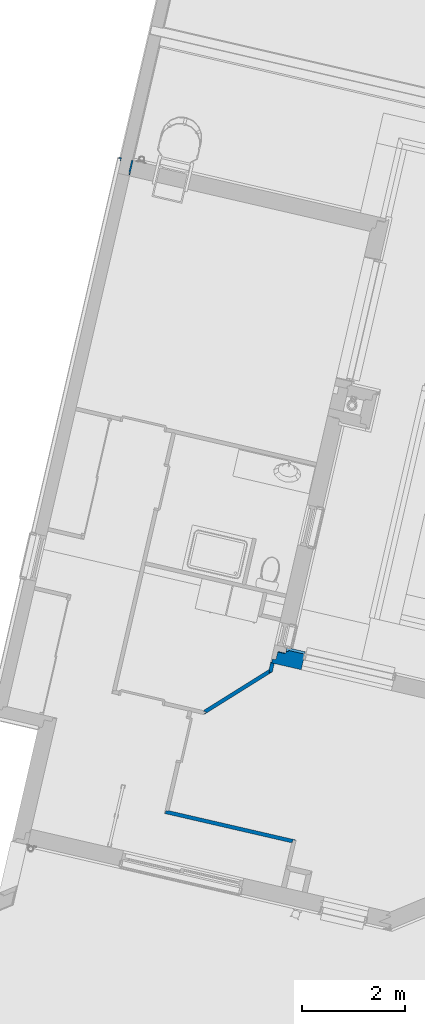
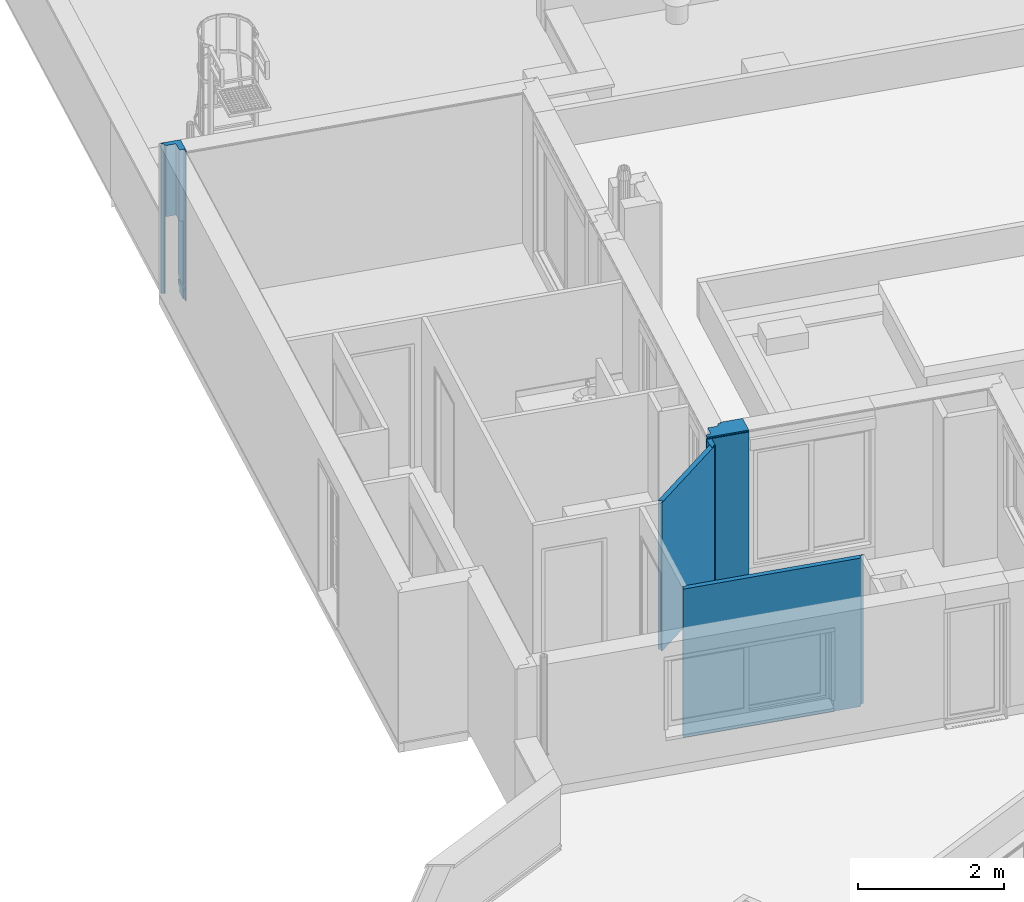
# One storey, part 8 of 47: 5 walls.
"""IFC2X3 building model written with IfcOpenShell, lengths in metres."""

from ifc_helpers import new_model, entity, si_unit, converted_unit, derived_unit, money_unit, direction, frame, origin_with_axes, place, context, subcontext, project, spatial, faceted_brep, material, material_list, type_object, element, save


model = new_model("IFC2X3")

# Units and contexts
model_context = context("Model", 3, precision=1e-05, world=origin_with_axes(), true_north=direction((0.0, 1.0)))
body_context = subcontext(model_context, "Body", "Model", "MODEL_VIEW")
ifc_project = project(units=[si_unit("LENGTHUNIT", "METRE"), si_unit("AREAUNIT", "SQUARE_METRE"), si_unit("VOLUMEUNIT", "CUBIC_METRE"), converted_unit("PLANEANGLEUNIT", "DEGREE", entity("IfcPlaneAngleMeasure", 0.0174532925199), si_unit("PLANEANGLEUNIT", "RADIAN"), dimensions=[0, 0, 0, 0, 0, 0, 0]), si_unit("SOLIDANGLEUNIT", "STERADIAN"), money_unit("EUR"), converted_unit("TIMEUNIT", "Year", entity("IfcTimeMeasure", 31556926.0), si_unit("TIMEUNIT", "SECOND"), dimensions=[0, 0, 1, 0, 0, 0, 0]), si_unit("MASSUNIT", "GRAM", prefix="KILO"), si_unit("THERMODYNAMICTEMPERATUREUNIT", "DEGREE_CELSIUS"), si_unit("LUMINOUSINTENSITYUNIT", "LUMEN"), si_unit("ENERGYUNIT", "JOULE", prefix="MEGA"), derived_unit("THERMALCONDUCTANCEUNIT", [(si_unit("POWERUNIT", "WATT"), 1), (si_unit("LENGTHUNIT", "METRE"), -1), (si_unit("THERMODYNAMICTEMPERATUREUNIT", "KELVIN"), -1)]), derived_unit("SPECIFICHEATCAPACITYUNIT", [(si_unit("ENERGYUNIT", "JOULE"), 1), (si_unit("MASSUNIT", "GRAM", prefix="KILO"), -1), (si_unit("THERMODYNAMICTEMPERATUREUNIT", "KELVIN"), -1)]), derived_unit("MASSDENSITYUNIT", [(si_unit("MASSUNIT", "GRAM", prefix="KILO"), 1), (si_unit("VOLUMEUNIT", "CUBIC_METRE"), -1)])], contexts=[model_context])

# Site, building, storey
site_placement = place(None, origin_with_axes())
site = spatial("IfcSite", under=ifc_project, at=site_placement, Name="Site", CompositionType="ELEMENT")
building_placement = place(site_placement, origin_with_axes())
building = spatial("IfcBuilding", under=site, at=building_placement, Name="Bâtiment", CompositionType="ELEMENT")
storey_placement = place(building_placement, frame((0.0, 0.0, 10.88), z_axis=(0.0, 0.0, 1.0), x_axis=(1.0, 0.0, 0.0)))
storey = spatial("IfcBuildingStorey", under=building, at=storey_placement, Name="R+4", CompositionType="ELEMENT", Elevation=10.88)

# Walls
ifc_material_1 = material(Name="Finition int - Plaque de plâtre")
ifc_material_2 = material(Name="Isolation - Laine de roche")
ifc_material_list_1 = material_list([ifc_material_1, ifc_material_2, ifc_material_1])
wall_type_1 = type_object("IfcWallType", Name="3 - Cloison 72mm Placostil 74", PredefinedType="USERDEFINED")
wall_1_placement = place(storey_placement, frame((-14.0630039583, -11.6742823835, 0.0), z_axis=(0.0, 0.0, 1.0), x_axis=(-0.974387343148, 0.224876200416, 0.0)))
element("IfcWall", 1, at=wall_1_placement, inside=storey, type_object=wall_type_1, material=ifc_material_list_1, Name="Cloison Placostil 72/48", ObjectType="PARTITIONING", context=body_context, shape_type="Brep", body=[
    faceted_brep([(0.0739999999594, 0.074, 0.02), (0.0739999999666, 0.061, 0.02), (0.0739999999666, 0.061, 2.5), (0.0739999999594, 0.074, 2.5), (2.61095097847, 0.061, 0.02), (2.61095097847, 0.074, 0.02), (2.61095097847, 0.061, 2.5), (2.61095097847, 0.074, 2.5)], [[[0, 1, 2, 3]], [[4, 1, 0, 5]], [[1, 4, 6, 2]], [[6, 7, 3, 2]], [[5, 0, 3, 7]], [[4, 5, 7, 6]]]),
    faceted_brep([(0.0609999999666, 0.061, 0.02), (0.0609999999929, 0.013, 0.02), (0.0609999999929, 0.013, 2.5), (0.0609999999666, 0.061, 2.5), (2.59795097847, 0.013, 0.02), (2.59795097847, 0.061, 0.02), (2.59795097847, 0.013, 2.5), (2.59795097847, 0.061, 2.5)], [[[0, 1, 2, 3]], [[4, 1, 0, 5]], [[1, 4, 6, 2]], [[6, 7, 3, 2]], [[5, 0, 3, 7]], [[4, 5, 7, 6]]]),
    faceted_brep([(0.0129999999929, 0.013, 0.02), (0.013, 0.0, 0.02), (0.013, 0.0, 2.5), (0.0129999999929, 0.013, 2.5), (2.54995097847, 0.0, 0.02), (2.54995097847, 0.013, 0.02), (2.54995097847, 0.0, 2.5), (2.54995097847, 0.013, 2.5)], [[[0, 1, 2, 3]], [[4, 1, 0, 5]], [[1, 4, 6, 2]], [[6, 7, 3, 2]], [[5, 0, 3, 7]], [[4, 5, 7, 6]]]),
])
wall_2_placement = place(storey_placement, frame((-14.5908405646, -8.35991077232, 0.0), z_axis=(0.0, 0.0, 1.0), x_axis=(-0.848007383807, -0.529984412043, 0.0)))
element("IfcWall", 2, at=wall_2_placement, inside=storey, type_object=wall_type_1, material=ifc_material_list_1, Name="Cloison Placostil 72/48", ObjectType="PARTITIONING", context=body_context, shape_type="Brep", body=[
    faceted_brep([(-0.0122670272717, 0.074, 0.02), (-0.0252670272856, 0.061, 0.02), (-0.0252670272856, 0.061, 2.5), (-0.0122670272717, 0.074, 2.5), (1.53111790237, 0.061, 0.02), (1.51811790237, 0.074, 0.02), (1.53111790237, 0.061, 2.5), (1.51811790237, 0.074, 2.5)], [[[0, 1, 2, 3]], [[4, 1, 0, 5]], [[1, 4, 6, 2]], [[6, 7, 3, 2]], [[5, 0, 3, 7]], [[4, 5, 7, 6]]]),
    faceted_brep([(0.0426152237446, 0.061, 0.02), (-0.00538477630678, 0.013, 0.02), (-0.00538477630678, 0.013, 2.5), (0.0426152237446, 0.061, 2.5), (1.51123565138, 0.013, 0.02), (1.46323565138, 0.061, 0.02), (1.51123565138, 0.013, 2.5), (1.46323565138, 0.061, 2.5)], [[[0, 1, 2, 3]], [[4, 1, 0, 5]], [[1, 4, 6, 2]], [[6, 7, 3, 2]], [[5, 0, 3, 7]], [[4, 5, 7, 6]]]),
    faceted_brep([(0.0130000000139, 0.013, 0.02), (0.0, 0.0, 0.02), (0.0, 0.0, 2.5), (0.0130000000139, 0.013, 2.5), (1.50585087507, 0.0, 0.02), (1.49285087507, 0.013, 0.02), (1.50585087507, 0.0, 2.5), (1.49285087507, 0.013, 2.5)], [[[0, 1, 2, 3]], [[4, 1, 0, 5]], [[1, 4, 6, 2]], [[6, 7, 3, 2]], [[5, 0, 3, 7]], [[4, 5, 7, 6]]]),
])
wall_3_placement = place(storey_placement, frame((-14.5602169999, -8.22721903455, 0.0), z_axis=(0.0, 0.0, 1.0), x_axis=(-0.224876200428, -0.974387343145, 0.0)))
element("IfcWall", 3, at=wall_3_placement, inside=storey, type_object=wall_type_1, material=ifc_material_list_1, Name="Cloison Placostil 72/48", ObjectType="PARTITIONING", context=body_context, shape_type="Brep", body=[
    faceted_brep([(0.166831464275, 0.074, 0.02), (0.0, 0.074, 0.02), (0.0, 0.074, 2.5), (0.166831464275, 0.074, 2.5), (0.0, 0.061, 0.02), (0.179831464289, 0.061, 0.02), (0.0, 0.061, 2.5), (0.179831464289, 0.061, 2.5)], [[[0, 1, 2, 3]], [[4, 1, 0, 5]], [[1, 4, 6, 2]], [[7, 3, 2, 6]], [[5, 0, 3, 7]], [[4, 5, 7, 6]]]),
    faceted_brep([(0.161446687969, 0.061, 0.02), (0.0, 0.061, 0.02), (0.0, 0.061, 2.5), (0.161446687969, 0.061, 2.5), (0.0, 0.013, 0.02), (0.20944668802, 0.013, 0.02), (0.0, 0.013, 2.5), (0.20944668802, 0.013, 2.5)], [[[0, 1, 2, 3]], [[4, 1, 0, 5]], [[1, 4, 6, 2]], [[7, 3, 2, 6]], [[5, 0, 3, 7]], [[4, 5, 7, 6]]]),
    faceted_brep([(0.14156443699, 0.013, 0.02), (0.0, 0.013, 0.02), (0.0, 0.013, 2.5), (0.14156443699, 0.013, 2.5), (0.0, 0.0, 0.02), (0.154564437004, 0.0, 0.02), (0.0, 0.0, 2.5), (0.154564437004, 0.0, 2.5)], [[[0, 1, 2, 3]], [[4, 1, 0, 5]], [[1, 4, 6, 2]], [[7, 3, 2, 6]], [[5, 0, 3, 7]], [[4, 5, 7, 6]]]),
])
ifc_material_3 = material(Name="Métal - Aluminium")
ifc_material_4 = material(Name="Etanchéité - Bitume")
ifc_material_5 = material(Name="Isolation - Polyuréthane (extérieur)")
ifc_material_6 = material(Name="Finition ext - Bardage bois")
ifc_material_7 = material(Name="Bois - Lattage")
ifc_material_8 = material(Name="Bois - OSB 02")
ifc_material_9 = material(Name="Béton")
ifc_material_10 = material(Name="Isolation - Laine de verre")
ifc_material_11 = material(Name="Bois - Massif 01")
ifc_material_12 = material(Name="Etanchéité - Pare-vapeur")
ifc_material_list_2 = material_list([ifc_material_3, ifc_material_4, ifc_material_5, ifc_material_6, ifc_material_7, ifc_material_8, ifc_material_9, ifc_material_10, ifc_material_11, ifc_material_11, ifc_material_12, ifc_material_10, ifc_material_1])
wall_type_2 = type_object("IfcWallType", Name="Mur ossature Bois avec talon béton 358 x 2500", PredefinedType="ELEMENTEDWALL")
wall_4_placement = place(storey_placement, frame((-14.1884452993, -7.99487058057, 0.02), z_axis=(0.0, 0.0, 1.0), x_axis=(0.974387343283, -0.224876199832, 0.0)))
element("IfcWall", 4, at=wall_4_placement, inside=storey, type_object=wall_type_2, material=ifc_material_list_2, Name="M_Ext-009", ObjectType="ELEMENTEDWALL", context=body_context, shape_type="Brep", body=[
    faceted_brep([(-0.0650000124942, -0.06, 0.275), (-0.0650000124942, -0.06, 0.435), (0.300660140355, -0.06, 0.435), (0.300660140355, -0.06, 0.235), (-0.0650000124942, -0.06, 0.235), (-0.0650000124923, -0.065, 0.435), (-0.0650000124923, -0.065, 0.275), (0.300660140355, -0.065, 0.435), (0.300660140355, -0.065, 0.23), (0.300660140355, 0.0279999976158, 0.230000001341), (0.300660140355, 0.043, 0.23), (0.300660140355, 0.043, 0.2), (0.300660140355, 0.048, 0.2), (0.300660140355, 0.048, 0.235), (-0.0650000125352, 0.048, 0.235), (-0.0650000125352, 0.048, 0.230000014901), (-0.0650000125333, 0.043, 0.230000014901), (-0.0650000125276, 0.0279999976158, 0.230000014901), (-0.0650000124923, -0.065, 0.230000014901), (-0.0619999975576, 0.043, 0.230000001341), (0.0180000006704, 0.043, 0.230000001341), (0.0280000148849, 0.043, 0.230000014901), (0.0429999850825, 0.043, 0.230000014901), (0.0429999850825, 0.043, 0.2), (0.0429999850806, 0.048, 0.2), (0.0429999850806, 0.048, 0.230000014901), (0.028000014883, 0.048, 0.230000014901), (0.0180000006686, 0.048, 0.230000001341), (-0.0619999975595, 0.048, 0.230000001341)], [[[0, 1, 2, 3, 4]], [[5, 1, 0, 6]], [[1, 5, 7, 2]], [[3, 2, 7, 8, 9, 10, 11, 12, 13]], [[14, 4, 3, 13]], [[6, 0, 4, 14, 15, 16, 17, 18]], [[5, 6, 18, 8, 7]], [[18, 17, 9, 8]], [[17, 16, 19, 20, 21, 22, 10, 9]], [[22, 23, 11, 10]], [[23, 24, 12, 11]], [[15, 14, 13, 12, 24, 25, 26, 27, 28]], [[16, 15, 28, 19]], [[27, 20, 19, 28]], [[26, 21, 20, 27]], [[26, 25, 22, 21]], [[25, 24, 23, 22]]]),
    faceted_brep([(0.300660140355, 0.0179999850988, 0.109999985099), (0.300660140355, 0.0279999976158, 0.109999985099), (0.300660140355, 0.0279999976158, 0.230000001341), (0.300660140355, 0.0180000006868, 0.230000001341), (0.0180000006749, 0.0279999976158, 0.109999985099), (0.0180000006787, 0.0179999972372, 0.109999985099), (0.0180000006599, 0.0279999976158, 0.230000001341), (0.0180000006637, 0.0180000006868, 0.230000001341)], [[[0, 1, 2, 3]], [[4, 1, 0, 5]], [[1, 4, 6, 2]], [[2, 6, 7, 3]], [[5, 0, 3, 7]], [[4, 5, 7, 6]]]),
    faceted_brep([(0.300660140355, -0.0619999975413, 0.0999999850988), (0.300660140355, 0.0180000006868, 0.0999999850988), (0.300660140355, 0.0180000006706, 0.230000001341), (0.300660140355, -0.0619999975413, 0.230000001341), (-0.0619999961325, 0.0180000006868, 0.0999999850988), (-0.0619999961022, -0.0619999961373, 0.0999999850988), (-0.0619999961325, 0.0180000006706, 0.23), (-0.0619999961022, -0.0619999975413, 0.23)], [[[0, 1, 2, 3]], [[4, 1, 0, 5]], [[1, 4, 6, 2]], [[2, 6, 7, 3]], [[5, 0, 3, 7]], [[4, 5, 7, 6]]]),
    faceted_brep([(-0.024999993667, 0.0, 2.45499997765), (-0.024999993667, 0.0, 2.5), (0.300660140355, 0.0, 2.5), (0.300660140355, 0.0, 0.435), (-0.024999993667, 0.0, 0.435000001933), (-0.0249999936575, -0.025, 2.5), (-0.0249999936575, -0.025, 2.45499997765), (0.300660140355, -0.025, 2.5), (0.300660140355, -0.025, 0.435), (-0.0249999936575, -0.025, 0.435000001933)], [[[0, 1, 2, 3, 4]], [[5, 1, 0, 6]], [[1, 5, 7, 2]], [[3, 2, 7, 8]], [[9, 4, 3, 8]], [[6, 0, 4, 9]], [[5, 6, 9, 8, 7]]]),
    faceted_brep([(-0.0650000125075, -0.024999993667, 2.45499997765), (-0.0650000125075, -0.024999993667, 2.5), (0.300660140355, -0.024999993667, 2.5), (0.300660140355, -0.024999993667, 0.435000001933), (-0.0650000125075, -0.024999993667, 0.435), (-0.0650000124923, -0.0649999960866, 2.5), (-0.0650000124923, -0.0649999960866, 2.45499997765), (0.300660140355, -0.0649999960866, 2.5), (0.300660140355, -0.0600000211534, 0.435000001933), (0.300660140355, -0.0649999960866, 0.435000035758), (-0.0650000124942, -0.0600000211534, 0.435), (-0.0650000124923, -0.0649999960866, 0.435)], [[[0, 1, 2, 3, 4]], [[5, 1, 0, 6]], [[1, 5, 7, 2]], [[8, 3, 2, 7, 9]], [[10, 4, 3, 8]], [[6, 0, 4, 10, 11]], [[5, 6, 11, 9, 7]], [[11, 10, 8, 9]]]),
    faceted_brep([(-0.0769999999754, -0.065000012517, 2.455), (-0.0769999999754, -0.065000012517, 2.5), (0.300660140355, -0.065000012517, 2.5), (0.300660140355, -0.065000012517, 0.230000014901), (-0.0769999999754, -0.065000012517, 0.23), (-0.0769999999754, -0.065000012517, 0.275), (-0.0769999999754, -0.065000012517, 0.435), (-0.0769999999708, -0.0770000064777, 2.5), (-0.0769999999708, -0.0770000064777, 2.455), (0.300660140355, -0.0770000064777, 2.5), (0.300660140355, -0.0770000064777, 0.230000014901), (-0.0769999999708, -0.0770000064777, 0.23), (-0.0769999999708, -0.0770000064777, 0.275), (-0.0769999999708, -0.0770000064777, 0.435)], [[[0, 1, 2, 3, 4, 5, 6]], [[7, 1, 0, 8]], [[1, 7, 9, 2]], [[10, 3, 2, 9]], [[11, 4, 3, 10]], [[12, 5, 4, 11]], [[13, 6, 5, 12]], [[8, 0, 6, 13]], [[7, 8, 13, 12, 11, 10, 9]]]),
    faceted_brep([(-0.221999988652, -0.0619999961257, 0.23), (0.300660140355, -0.0619999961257, 0.23), (0.300660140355, -0.0619999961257, 0.0), (-0.221999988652, -0.0619999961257, 0.0), (-0.221999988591, -0.222000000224, 0.23), (0.300660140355, -0.222000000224, 0.23), (0.300660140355, -0.222000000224, 0.0), (-0.221999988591, -0.222000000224, 0.0)], [[[0, 1, 2, 3]], [[1, 0, 4, 5]], [[1, 5, 6, 2]], [[6, 7, 3, 2]], [[7, 4, 0, 3]], [[5, 4, 7, 6]]]),
    faceted_brep([(-0.221999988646, -0.077, 0.435), (-0.221999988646, -0.077, 2.45499997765), (0.300660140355, -0.077, 2.45499997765), (0.300660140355, -0.077, 0.275), (-0.221999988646, -0.077, 0.275), (-0.221999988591, -0.221999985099, 2.45499997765), (-0.221999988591, -0.221999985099, 0.435), (0.300660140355, -0.221999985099, 2.4550000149), (0.300660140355, -0.221999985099, 0.275), (-0.221999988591, -0.221999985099, 0.275)], [[[0, 1, 2, 3, 4]], [[5, 1, 0, 6]], [[1, 5, 7, 2]], [[7, 8, 3, 2]], [[9, 4, 3, 8]], [[6, 0, 4, 9]], [[5, 6, 9, 8, 7]]]),
    faceted_brep([(-0.221999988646, -0.077, 0.23), (-0.221999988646, -0.077, 0.275), (0.300660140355, -0.077, 0.275), (0.300660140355, -0.077, 0.23), (-0.221999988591, -0.222, 0.275), (-0.221999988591, -0.222, 0.23), (0.300660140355, -0.222, 0.275), (0.300660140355, -0.222, 0.23)], [[[0, 1, 2, 3]], [[4, 1, 0, 5]], [[1, 4, 6, 2]], [[2, 6, 7, 3]], [[5, 0, 3, 7]], [[4, 5, 7, 6]]]),
    faceted_brep([(-0.221999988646, -0.077, 2.45499997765), (-0.221999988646, -0.077, 2.5), (0.300660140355, -0.077, 2.5), (0.300660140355, -0.077, 2.455), (-0.221999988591, -0.222, 2.5), (-0.221999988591, -0.222, 2.45499997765), (0.300660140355, -0.222, 2.5), (0.300660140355, -0.222, 2.455)], [[[0, 1, 2, 3]], [[4, 1, 0, 5]], [[1, 4, 6, 2]], [[2, 6, 7, 3]], [[5, 0, 3, 7]], [[4, 5, 7, 6]]]),
    faceted_brep([(-0.232000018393, -0.221999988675, 2.5), (0.300660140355, -0.221999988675, 2.5), (0.300660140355, -0.221999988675, 0.0), (-0.232000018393, -0.221999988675, 0.0), (-0.23200001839, -0.232000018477, 2.5), (0.300660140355, -0.232000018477, 2.5), (0.300660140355, -0.232000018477, 0.0), (-0.23200001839, -0.232000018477, 0.0)], [[[0, 1, 2, 3]], [[1, 0, 4, 5]], [[1, 5, 6, 2]], [[6, 7, 3, 2]], [[7, 4, 0, 3]], [[5, 4, 7, 6]]]),
    faceted_brep([(-0.292000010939, -0.232000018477, 2.5), (0.300660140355, -0.232000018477, 2.5), (0.300660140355, -0.232000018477, 0.0), (-0.292000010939, -0.232000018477, 0.0), (-0.292000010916, -0.292000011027, 2.5), (0.300660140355, -0.292000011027, 2.5), (0.300660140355, -0.292000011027, 0.0), (-0.292000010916, -0.292000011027, 0.0)], [[[0, 1, 2, 3]], [[1, 0, 4, 5]], [[6, 2, 1, 5]], [[6, 7, 3, 2]], [[7, 4, 0, 3]], [[5, 4, 7, 6]]]),
    faceted_brep([(-0.309999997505, -0.292000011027, 2.48), (-0.292000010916, -0.292000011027, 2.48), (0.300660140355, -0.292000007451, 2.48), (0.300660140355, -0.292000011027, 0.0), (-0.309999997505, -0.292000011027, 0.0), (0.300660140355, -0.309999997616, 2.48), (-0.309999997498, -0.309999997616, 2.48), (0.300660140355, -0.309999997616, 0.0), (-0.309999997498, -0.309999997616, 0.0)], [[[0, 1, 2, 3, 4]], [[5, 2, 1, 0, 6]], [[2, 5, 7, 3]], [[7, 8, 4, 3]], [[6, 0, 4, 8]], [[5, 6, 8, 7]]]),
])
ifc_material_list_3 = material_list([ifc_material_10, ifc_material_12, ifc_material_10, ifc_material_8, ifc_material_7, ifc_material_6])
wall_type_3 = type_object("IfcWallType", Name="1 - Mur Ossature Bois 145 isolé + bardage 310", PredefinedType="ELEMENTEDWALL")
wall_5_placement = place(storey_placement, frame((-17.2337447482, 1.52151722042, 0.02), z_axis=(0.0, 0.0, 1.0), x_axis=(-0.974387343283, 0.224876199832, 0.0)))
element("IfcWall", 5, at=wall_5_placement, inside=storey, type_object=wall_type_3, material=ifc_material_list_3, Name="M_Ext-009", ObjectType="ELEMENTEDWALL", context=body_context, shape_type="Brep", body=[
    faceted_brep([(0.0125153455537, 0.217, 0.215967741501), (0.0125153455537, 0.217, 0.218305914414), (0.0179999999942, 0.217, 0.220679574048), (0.0179999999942, 0.217, 2.5), (0.0, 0.217, 2.5), (0.0, 0.217, 0.0), (0.0179999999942, 0.217, 0.0), (0.0179999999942, 0.217, 0.186881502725), (0.0137494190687, 0.217, 0.186881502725), (0.0125153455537, 0.217, 0.186881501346), (0.0125153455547, 0.277, 0.218305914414), (0.0125153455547, 0.277, 0.215967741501), (0.0179999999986, 0.277, 0.22067957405), (0.0179999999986, 0.277, 2.5), (0.0, 0.277, 2.5), (0.0, 0.277, 0.0), (0.0179999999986, 0.277, 0.0), (0.0179999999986, 0.277, 0.186881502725), (0.0137494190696, 0.277, 0.186881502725), (0.0125153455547, 0.277, 0.186881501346)], [[[0, 1, 2, 3, 4, 5, 6, 7, 8, 9]], [[10, 1, 0, 11]], [[12, 2, 1, 10]], [[3, 2, 12, 13]], [[4, 3, 13, 14]], [[4, 14, 15, 5]], [[15, 16, 6, 5]], [[16, 17, 7, 6]], [[17, 18, 8, 7]], [[9, 8, 18, 19]], [[19, 11, 0, 9]], [[12, 10, 11, 19, 18, 17, 16, 15, 14, 13]]]),
    faceted_brep([(0.032999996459, 0.207, 0.266423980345), (0.032999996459, 0.207, 1.31), (0.0779999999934, 0.207, 1.31), (0.0779999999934, 0.207, 2.5), (0.0, 0.207, 2.5), (0.0, 0.207, 0.0), (0.032999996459, 0.207, 0.0), (0.032999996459, 0.207, 0.0872580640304), (0.032999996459, 0.207, 0.186881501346), (0.0230000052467, 0.207, 0.186881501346), (0.0137494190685, 0.207, 0.186881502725), (0.0125153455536, 0.207, 0.186881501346), (0.0125153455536, 0.207, 0.215967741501), (0.0125153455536, 0.207, 0.218305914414), (0.0293595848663, 0.207, 0.225595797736), (0.0319546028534, 0.207, 0.226718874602), (0.0319546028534, 0.207, 0.26642398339), (0.0329999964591, 0.217, 1.31), (0.0329999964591, 0.217, 0.266423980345), (0.0779999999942, 0.217, 1.31), (0.0779999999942, 0.217, 2.5), (0.0, 0.217, 2.5), (0.0, 0.217, 0.0), (0.0329999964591, 0.217, 0.0), (0.0329999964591, 0.217, 0.0872580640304), (0.0329999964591, 0.217, 0.186881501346), (0.0230000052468, 0.217, 0.186881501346), (0.0137494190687, 0.217, 0.186881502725), (0.0125153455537, 0.217, 0.186881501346), (0.0125153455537, 0.217, 0.215967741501), (0.0125153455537, 0.217, 0.218305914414), (0.0293595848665, 0.217, 0.225595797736), (0.0319546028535, 0.217, 0.226718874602), (0.0319546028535, 0.217, 0.26642398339)], [[[0, 1, 2, 3, 4, 5, 6, 7, 8, 9, 10, 11, 12, 13, 14, 15, 16]], [[17, 1, 0, 18]], [[19, 2, 1, 17]], [[3, 2, 19, 20]], [[4, 3, 20, 21]], [[4, 21, 22, 5]], [[22, 23, 6, 5]], [[23, 24, 7, 6]], [[25, 8, 7, 24]], [[25, 26, 9, 8]], [[10, 9, 26, 27]], [[11, 10, 27, 28]], [[28, 29, 12, 11]], [[30, 13, 12, 29]], [[30, 31, 14, 13]], [[32, 15, 14, 31]], [[33, 16, 15, 32]], [[33, 18, 0, 16]], [[19, 17, 18, 33, 32, 31, 30, 29, 28, 27, 26, 25, 24, 23, 22, 21, 20]]]),
    faceted_brep([(0.0329999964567, 0.062, 0.266423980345), (0.0329999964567, 0.062, 1.31), (0.0879999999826, 0.062, 1.31), (0.0879999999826, 0.062, 2.5), (0.0, 0.062, 2.5), (0.0, 0.062, 0.0), (0.0329999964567, 0.062, 0.0), (0.0329999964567, 0.062, 0.0872580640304), (0.0329999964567, 0.062, 0.186881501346), (0.0230000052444, 0.062, 0.186881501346), (0.0137494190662, 0.062, 0.186881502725), (0.0125153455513, 0.062, 0.186881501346), (0.0125153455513, 0.062, 0.215967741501), (0.0125153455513, 0.062, 0.218305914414), (0.0293595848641, 0.062, 0.225595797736), (0.0319546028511, 0.062, 0.226718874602), (0.0319546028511, 0.062, 0.26642398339), (0.032999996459, 0.207, 1.31), (0.032999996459, 0.207, 0.266423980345), (0.0879999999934, 0.207, 1.31), (0.0879999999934, 0.207, 2.5), (0.0, 0.207, 2.5), (0.0, 0.207, 0.0), (0.032999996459, 0.207, 0.0), (0.032999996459, 0.207, 0.0872580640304), (0.032999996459, 0.207, 0.186881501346), (0.0230000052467, 0.207, 0.186881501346), (0.0137494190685, 0.207, 0.186881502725), (0.0125153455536, 0.207, 0.186881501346), (0.0125153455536, 0.207, 0.215967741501), (0.0125153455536, 0.207, 0.218305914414), (0.0293595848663, 0.207, 0.225595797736), (0.0319546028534, 0.207, 0.226718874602), (0.0319546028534, 0.207, 0.26642398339)], [[[0, 1, 2, 3, 4, 5, 6, 7, 8, 9, 10, 11, 12, 13, 14, 15, 16]], [[17, 1, 0, 18]], [[19, 2, 1, 17]], [[3, 2, 19, 20]], [[4, 3, 20, 21]], [[4, 21, 22, 5]], [[22, 23, 6, 5]], [[23, 24, 7, 6]], [[25, 8, 7, 24]], [[25, 26, 9, 8]], [[10, 9, 26, 27]], [[11, 10, 27, 28]], [[28, 29, 12, 11]], [[30, 13, 12, 29]], [[30, 31, 14, 13]], [[32, 15, 14, 31]], [[33, 16, 15, 32]], [[33, 18, 0, 16]], [[19, 17, 18, 33, 32, 31, 30, 29, 28, 27, 26, 25, 24, 23, 22, 21, 20]]]),
    faceted_brep([(0.0329999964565, 0.05, 0.266423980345), (0.0329999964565, 0.05, 1.31), (0.232999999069, 0.05, 1.31), (0.232999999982, 0.05, 2.5), (0.0, 0.05, 2.5), (0.0, 0.05, 0.0), (0.0329999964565, 0.05, 0.0), (0.0329999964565, 0.05, 0.0872580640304), (0.0329999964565, 0.05, 0.186881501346), (0.0230000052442, 0.05, 0.186881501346), (0.013749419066, 0.05, 0.186881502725), (0.0125153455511, 0.05, 0.186881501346), (0.0125153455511, 0.05, 0.215967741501), (0.0125153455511, 0.05, 0.218305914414), (0.0293595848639, 0.05, 0.225595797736), (0.0319546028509, 0.05, 0.226718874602), (0.0319546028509, 0.05, 0.26642398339), (0.0329999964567, 0.062, 1.31), (0.0329999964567, 0.062, 0.266423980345), (0.232999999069, 0.062, 1.31), (0.232999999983, 0.062, 2.5), (0.0, 0.062, 2.5), (0.0, 0.062, 0.0), (0.0329999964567, 0.062, 0.0), (0.0329999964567, 0.062, 0.0872580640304), (0.0329999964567, 0.062, 0.186881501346), (0.0230000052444, 0.062, 0.186881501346), (0.0137494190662, 0.062, 0.186881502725), (0.0125153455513, 0.062, 0.186881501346), (0.0125153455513, 0.062, 0.215967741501), (0.0125153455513, 0.062, 0.218305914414), (0.0293595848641, 0.062, 0.225595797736), (0.0319546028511, 0.062, 0.226718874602), (0.0319546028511, 0.062, 0.26642398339)], [[[0, 1, 2, 3, 4, 5, 6, 7, 8, 9, 10, 11, 12, 13, 14, 15, 16]], [[17, 1, 0, 18]], [[19, 2, 1, 17]], [[3, 2, 19, 20]], [[4, 3, 20, 21]], [[4, 21, 22, 5]], [[22, 23, 6, 5]], [[23, 24, 7, 6]], [[25, 8, 7, 24]], [[25, 26, 9, 8]], [[10, 9, 26, 27]], [[11, 10, 27, 28]], [[28, 29, 12, 11]], [[30, 13, 12, 29]], [[30, 31, 14, 13]], [[32, 15, 14, 31]], [[33, 16, 15, 32]], [[33, 18, 0, 16]], [[19, 17, 18, 33, 32, 31, 30, 29, 28, 27, 26, 25, 24, 23, 22, 21, 20]]]),
    faceted_brep([(0.0, 0.0500000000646, 0.0999999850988), (0.0, 0.01, 0.0999999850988), (0.0, 0.01, 2.5), (0.0, 0.05, 2.5), (0.0330000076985, 0.01, 0.0999999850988), (0.0330000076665, 0.05, 0.0999999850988), (0.0329999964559, 0.01, 0.186881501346), (0.0230000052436, 0.01, 0.186881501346), (0.0137494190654, 0.01, 0.186881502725), (0.0125153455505, 0.01, 0.186881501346), (0.0125153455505, 0.01, 0.215967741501), (0.0125153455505, 0.01, 0.218305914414), (0.0293595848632, 0.01, 0.225595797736), (0.0319546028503, 0.01, 0.226718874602), (0.0319546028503, 0.01, 0.26642398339), (0.0329999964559, 0.01, 0.266423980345), (0.0329999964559, 0.01, 1.31), (0.232999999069, 0.01, 1.31), (0.232999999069, 0.01, 0.266423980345), (0.232999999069, 0.01, 0.225595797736), (0.232999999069, 0.01, 0.215967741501), (0.232999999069, 0.01, 0.186881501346), (0.232999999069, 0.01, 0.0872580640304), (0.232999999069, 0.01, 0.02), (0.244999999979, 0.01, 0.02), (0.244999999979, 0.01, 2.5), (0.244999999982, 0.05, 2.5), (0.244999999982, 0.05, 0.02), (0.232999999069, 0.05, 0.02), (0.232999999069, 0.05, 0.0872580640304), (0.232999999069, 0.05, 0.186881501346), (0.232999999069, 0.05, 0.215967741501), (0.232999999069, 0.05, 0.225595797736), (0.232999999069, 0.05, 0.266423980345), (0.232999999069, 0.05, 1.31), (0.0329999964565, 0.05, 1.31), (0.0329999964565, 0.05, 0.266423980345), (0.0319546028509, 0.05, 0.26642398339), (0.0319546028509, 0.05, 0.226718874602), (0.0293595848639, 0.05, 0.225595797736), (0.0125153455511, 0.05, 0.218305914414), (0.0125153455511, 0.05, 0.215967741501), (0.0125153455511, 0.05, 0.186881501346), (0.013749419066, 0.05, 0.186881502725), (0.0230000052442, 0.05, 0.186881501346), (0.0329999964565, 0.05, 0.186881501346)], [[[0, 1, 2, 3]], [[4, 1, 0, 5]], [[1, 4, 6, 7, 8, 9, 10, 11, 12, 13, 14, 15, 16, 17, 18, 19, 20, 21, 22, 23, 24, 25, 2]], [[2, 25, 26, 3]], [[5, 0, 3, 26, 27, 28, 29, 30, 31, 32, 33, 34, 35, 36, 37, 38, 39, 40, 41, 42, 43, 44, 45]], [[4, 5, 45, 6]], [[45, 44, 7, 6]], [[8, 7, 44, 43]], [[9, 8, 43, 42]], [[42, 41, 10, 9]], [[40, 11, 10, 41]], [[40, 39, 12, 11]], [[38, 13, 12, 39]], [[37, 14, 13, 38]], [[37, 36, 15, 14]], [[35, 16, 15, 36]], [[34, 17, 16, 35]], [[33, 18, 17, 34]], [[19, 18, 33, 32]], [[20, 19, 32, 31]], [[21, 20, 31, 30]], [[22, 21, 30, 29]], [[23, 22, 29, 28]], [[24, 23, 28, 27]], [[25, 24, 27, 26]]]),
    faceted_brep([(0.0, 0.01, 0.0999999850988), (0.0, -0.015, 0.0999999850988), (0.0, -0.015, 2.5), (0.0, 0.01, 2.5), (0.0330000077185, -0.015, 0.0999999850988), (0.0330000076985, 0.01, 0.0999999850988), (0.0329999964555, -0.015, 0.186881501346), (0.0230000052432, -0.015, 0.186881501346), (0.013749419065, -0.015, 0.186881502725), (0.0125153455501, -0.015, 0.186881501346), (0.0125153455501, -0.015, 0.215967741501), (0.0125153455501, -0.015, 0.218305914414), (0.0293595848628, -0.015, 0.225595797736), (0.0319546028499, -0.015, 0.226718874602), (0.0319546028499, -0.015, 0.26642398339), (0.0329999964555, -0.015, 0.266423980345), (0.0329999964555, -0.015, 1.31), (0.232999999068, -0.015, 1.31), (0.232999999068, -0.015, 0.266423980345), (0.232999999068, -0.015, 0.225595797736), (0.232999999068, -0.015, 0.215967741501), (0.232999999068, -0.015, 0.186881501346), (0.232999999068, -0.015, 0.0872580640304), (0.232999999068, -0.015, 0.02), (0.233000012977, -0.015, 0.0), (0.284999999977, -0.015, 0.0), (0.284999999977, -0.015, 2.5), (0.284999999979, 0.01, 2.5), (0.284999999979, 0.01, 0.0), (0.233000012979, 0.01, 0.0), (0.232999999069, 0.01, 0.02), (0.232999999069, 0.01, 0.0872580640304), (0.232999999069, 0.01, 0.186881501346), (0.232999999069, 0.01, 0.215967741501), (0.232999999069, 0.01, 0.225595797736), (0.232999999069, 0.01, 0.266423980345), (0.232999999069, 0.01, 1.31), (0.0329999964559, 0.01, 1.31), (0.0329999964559, 0.01, 0.266423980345), (0.0319546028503, 0.01, 0.26642398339), (0.0319546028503, 0.01, 0.226718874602), (0.0293595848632, 0.01, 0.225595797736), (0.0125153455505, 0.01, 0.218305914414), (0.0125153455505, 0.01, 0.215967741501), (0.0125153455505, 0.01, 0.186881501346), (0.0137494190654, 0.01, 0.186881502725), (0.0230000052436, 0.01, 0.186881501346), (0.0329999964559, 0.01, 0.186881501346)], [[[0, 1, 2, 3]], [[4, 1, 0, 5]], [[1, 4, 6, 7, 8, 9, 10, 11, 12, 13, 14, 15, 16, 17, 18, 19, 20, 21, 22, 23, 24, 25, 26, 2]], [[2, 26, 27, 3]], [[5, 0, 3, 27, 28, 29, 30, 31, 32, 33, 34, 35, 36, 37, 38, 39, 40, 41, 42, 43, 44, 45, 46, 47]], [[4, 5, 47, 6]], [[47, 46, 7, 6]], [[8, 7, 46, 45]], [[9, 8, 45, 44]], [[44, 43, 10, 9]], [[42, 11, 10, 43]], [[42, 41, 12, 11]], [[40, 13, 12, 41]], [[39, 14, 13, 40]], [[39, 38, 15, 14]], [[37, 16, 15, 38]], [[36, 17, 16, 37]], [[35, 18, 17, 36]], [[19, 18, 35, 34]], [[20, 19, 34, 33]], [[21, 20, 33, 32]], [[22, 21, 32, 31]], [[23, 22, 31, 30]], [[24, 23, 30, 29]], [[25, 24, 29, 28]], [[26, 25, 28, 27]]]),
])

save(model, "model.ifc")
